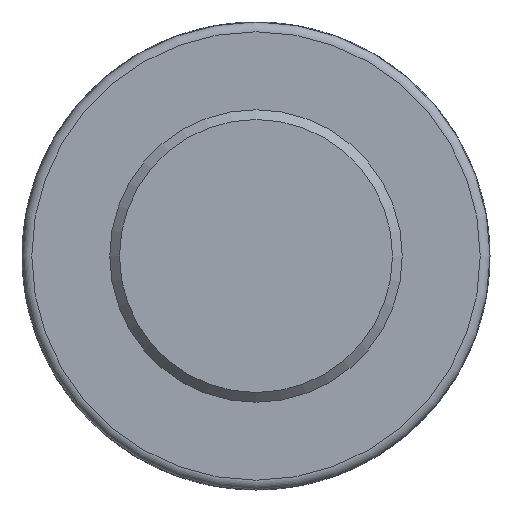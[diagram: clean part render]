
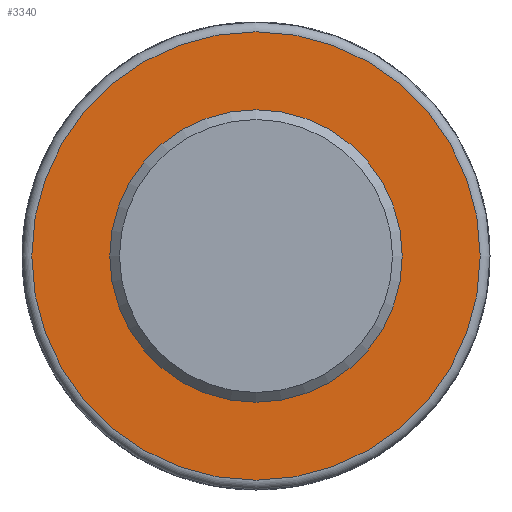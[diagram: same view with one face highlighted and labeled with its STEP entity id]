
A CAD part, front view. The second image highlights one B-rep face of the part: STEP entity #3340.
In plain terms, the highlighted planar face has unit normal (0, -1, 0) as drawn and (1, 0, 0) by its records, which use the part's own axes.
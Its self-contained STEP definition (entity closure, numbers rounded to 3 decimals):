
#783=ORIENTED_EDGE('',*,*,#1769,.F.);
#784=ORIENTED_EDGE('',*,*,#1768,.T.);
#1768=EDGE_CURVE('',#2266,#2266,#2523,.T.);
#1769=EDGE_CURVE('',#2267,#2267,#2524,.T.);
#2266=VERTEX_POINT('',#5205);
#2267=VERTEX_POINT('',#5208);
#2523=CIRCLE('',#3695,11.5);
#2524=CIRCLE('',#3697,6.5);
#2610=EDGE_LOOP('',(#783));
#2611=EDGE_LOOP('',(#784));
#2887=FACE_BOUND('',#2610,.T.);
#2888=FACE_BOUND('',#2611,.T.);
#3147=PLANE('',#3696);
#3340=ADVANCED_FACE('',(#2887,#2888),#3147,.F.);
#3695=AXIS2_PLACEMENT_3D('',#5204,#4175,#4176);
#3696=AXIS2_PLACEMENT_3D('',#5206,#4177,#4178);
#3697=AXIS2_PLACEMENT_3D('',#5207,#4179,#4180);
#4175=DIRECTION('',(1.,0.,0.));
#4176=DIRECTION('',(0.,0.,-1.));
#4177=DIRECTION('',(-1.,0.,0.));
#4178=DIRECTION('',(0.,0.,1.));
#4179=DIRECTION('',(1.,0.,0.));
#4180=DIRECTION('',(0.,0.,-1.));
#5204=CARTESIAN_POINT('',(5.,0.,0.));
#5205=CARTESIAN_POINT('',(5.,0.,-11.5));
#5206=CARTESIAN_POINT('',(5.,11.5,0.));
#5207=CARTESIAN_POINT('',(5.,0.,0.));
#5208=CARTESIAN_POINT('',(5.,0.,-6.5));
